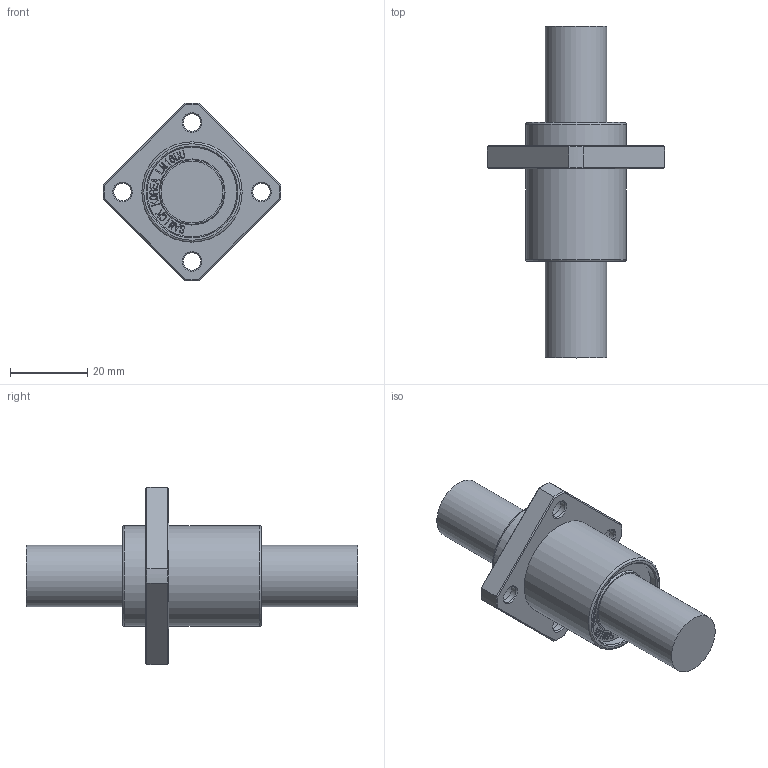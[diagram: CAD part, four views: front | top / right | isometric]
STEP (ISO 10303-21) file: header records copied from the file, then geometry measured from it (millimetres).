
FILE_DESCRIPTION(/* description */ (''),/* implementation_level */ '2;1');
FILE_NAME(/* name */ 'W:\(01) 2024년 홈페이지 CAD파일 최신화\LMEKP\IPT\LMEKP16UU.stp',/* time_stamp */ '2025-01-25T12:55:48+09:00',/* author */ ('서우현'),/* organization */ (''),/* preprocessor_version */ 'ST-DEVELOPER v17.2',/* originating_system */ 'Autodesk Inventor 2019',/* authorisation */ '');
FILE_SCHEMA (('AUTOMOTIVE_DESIGN { 1 0 10303 214 3 1 1 }'));
Length unit declared in the file: millimetre
Products named in the file (1): LM5
Bounding box: 45.98 x 86 x 45.98 mm (x, y, z)
Volume: 31268.3 mm3; surface area: 9037.2 mm2
Topology: 1 solids, 1 shells, 866 faces, 2424 edges, 1616 vertices
Faces by surface type: bspline 588, plane 238, cone 20, cylinder 18, torus 2
Full cylindrical faces by diameter (mm): 4.5 x4, 8 x4, 16 x2, 23.2 x2, 26 x2
Entity records: 29623 total; most frequent: CARTESIAN_POINT 10895, ORIENTED_EDGE 4848, EDGE_CURVE 2424, DIRECTION 1880, VERTEX_POINT 1616, B_SPLINE_CURVE_WITH_KNOTS 1176, LINE 1142, VECTOR 1142
